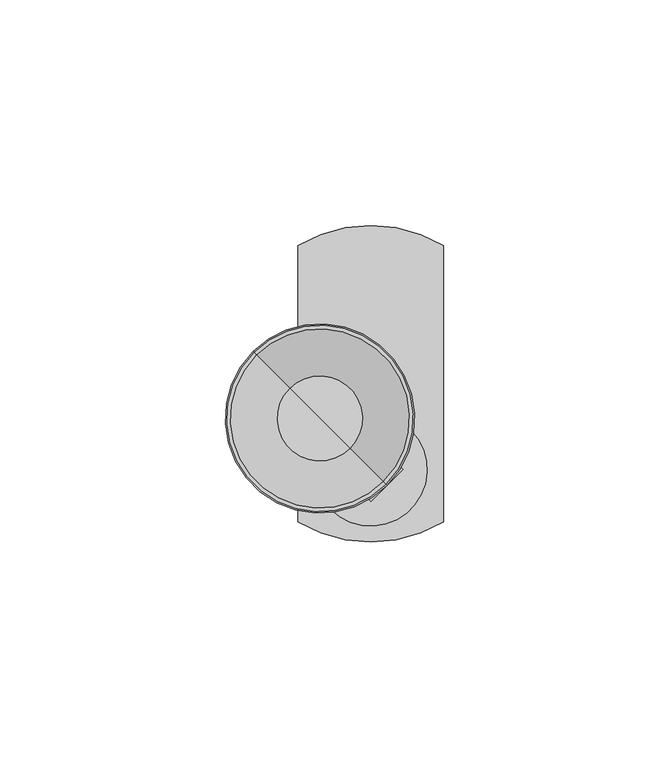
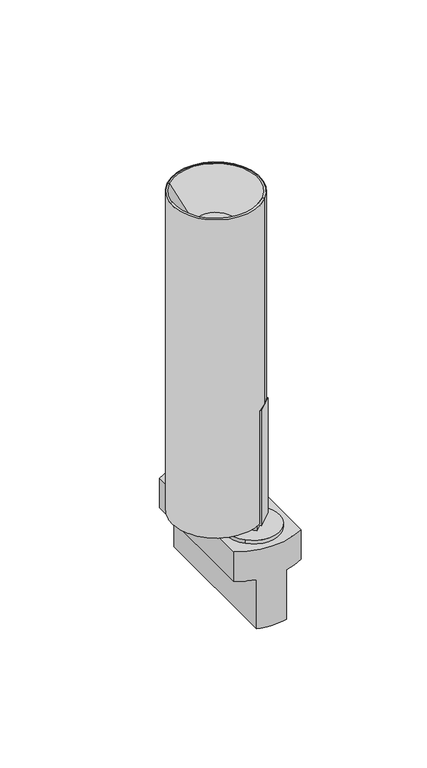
"""IFC4 building model written with IfcOpenShell, lengths in millimetres: light fixture geometry, PIPES T XS : 490lm 7,8W 930 38°."""

import ifcopenshell
import ifcopenshell.guid

model = None  # the IFC model being written
_history = None  # IfcOwnerHistory: only IFC2X3 demands one
_inside = {}  # id of a spatial element -> (the spatial element, [elements in it])
_under = {}  # id of a project, library or spatial element -> (it, [spatial elements below it])
_declared = {}  # id of a project -> (the project, [libraries it declares])
_typed = {}  # id of a type object -> (the type object, [elements of that type])
_made_of = {}  # id of a material, layer set ... -> (it, [elements and type objects made of it])


def new_model(schema):
    """Start an empty IFC model of exactly this schema.

    Asked for "IFC4X3", IfcOpenShell would pick the latest addendum, in which some entities
    have other attributes; the version numbers below select the first issue.
    IFC2X3 requires an IfcOwnerHistory on every rooted entity: one is made here for all.
    """
    global model, _history
    if schema == "IFC4X3":
        model = ifcopenshell.file(schema_version=(4, 3, 0, 0))
    else:
        model = ifcopenshell.file(schema=schema)
    _inside.clear()
    _under.clear()
    _declared.clear()
    _typed.clear()
    _made_of.clear()
    _history = None
    if model.schema == "IFC2X3":
        org = make("IfcOrganization", Name="unknown")
        user = make(
            "IfcPersonAndOrganization",
            ThePerson=make("IfcPerson", FamilyName="unknown"),
            TheOrganization=org,
        )
        app = make(
            "IfcApplication",
            ApplicationDeveloper=org,
            Version="unknown",
            ApplicationFullName="unknown",
            ApplicationIdentifier="unknown",
        )
        _history = make(
            "IfcOwnerHistory",
            OwningUser=user,
            OwningApplication=app,
            ChangeAction="ADDED",
            CreationDate=0,
        )
    return model


def make(cls, **values):
    """One entity of the class cls with the attributes given. An attribute that is None is left unset."""
    return model.create_entity(
        cls, **{name: value for name, value in values.items() if value is not None}
    )


def rooted(cls, **values):
    """An entity with a GlobalId (a new one), such as an element, a storey or a relation."""
    return make(cls, GlobalId=ifcopenshell.guid.new(), OwnerHistory=_history, **values)


def si_unit(unit_type, name, prefix=None):
    """IfcSIUnit, for example si_unit("LENGTHUNIT", "METRE", prefix="MILLI")."""
    return make("IfcSIUnit", UnitType=unit_type, Prefix=prefix, Name=name)


def assignment(units):
    """IfcUnitAssignment: the units of a project."""
    return None if units is None else make("IfcUnitAssignment", Units=units)


def point(xyz):
    """IfcCartesianPoint."""
    return None if xyz is None else make("IfcCartesianPoint", Coordinates=xyz)


def direction(xyz):
    """IfcDirection."""
    return None if xyz is None else make("IfcDirection", DirectionRatios=xyz)


def frame(location, z_axis=None, x_axis=None):
    """IfcAxis2Placement3D, a coordinate frame: its origin and axes. An axis left out is left unset."""
    return make(
        "IfcAxis2Placement3D",
        Location=point(location),
        Axis=direction(z_axis),
        RefDirection=direction(x_axis),
    )


def frame_2d(location, x_axis=None):
    """IfcAxis2Placement2D, a coordinate frame in the plane: its origin and x axis."""
    return make(
        "IfcAxis2Placement2D", Location=point(location), RefDirection=direction(x_axis)
    )


def origin():
    """The frame at (0, 0, 0) with its axes left unset."""
    return frame((0.0, 0.0, 0.0))


def origin_2d():
    """The frame at (0, 0) in the plane with its x axis left unset."""
    return frame_2d((0.0, 0.0))


def place(relative_to, where):
    """IfcLocalPlacement: puts the frame where relative to a parent placement (None: the world)."""
    return make(
        "IfcLocalPlacement", PlacementRelTo=relative_to, RelativePlacement=where
    )


def context(
    kind, dimensions, precision=None, world=None, true_north=None, identifier=None
):
    """IfcGeometricRepresentationContext, for example the 3D "Model" context."""
    return make(
        "IfcGeometricRepresentationContext",
        ContextIdentifier=identifier,
        ContextType=kind,
        CoordinateSpaceDimension=dimensions,
        Precision=precision,
        WorldCoordinateSystem=world,
        TrueNorth=true_north,
    )


def project(units=None, contexts=None):
    """IfcProject with its units and contexts."""
    return rooted(
        "IfcProject",
        Name="project",
        RepresentationContexts=contexts,
        UnitsInContext=assignment(units),
    )


def spatial(cls, under=None, at=None, **own):
    """A site, building, storey or space (cls), placed at a placement, below another one or the project."""
    s = rooted(cls, ObjectPlacement=at, **own)
    if under is not None:
        _under.setdefault(under.id(), (under, []))[1].append(s)
    return s


def polyline(points):
    """IfcPolyline through the points."""
    return make("IfcPolyline", Points=[point(p) for p in points])


def circle_curve(where, radius):
    """IfcCircle in the frame where."""
    return make("IfcCircle", Position=where, Radius=radius)


def trimmed(basis, trim1, trim2, sense, master):
    """IfcTrimmedCurve: the piece of a basis curve between two trims."""
    return make(
        "IfcTrimmedCurve",
        BasisCurve=basis,
        Trim1=trim1,
        Trim2=trim2,
        SenseAgreement=sense,
        MasterRepresentation=master,
    )


def segment(curve, same_sense, transition):
    """IfcCompositeCurveSegment."""
    return make(
        "IfcCompositeCurveSegment",
        Transition=transition,
        SameSense=same_sense,
        ParentCurve=curve,
    )


def composite_curve(segments, self_intersect=None):
    """IfcCompositeCurve: segments joined end to end."""
    return make("IfcCompositeCurve", Segments=segments, SelfIntersect=self_intersect)


def outline(outer, holes=None, kind="AREA"):
    """IfcArbitraryClosedProfileDef: a profile drawn as a closed curve; with holes, ...WithVoids."""
    if holes is None:
        return make("IfcArbitraryClosedProfileDef", ProfileType=kind, OuterCurve=outer)
    return make(
        "IfcArbitraryProfileDefWithVoids",
        ProfileType=kind,
        OuterCurve=outer,
        InnerCurves=holes,
    )


def extrude(swept, where, along, depth):
    """IfcExtrudedAreaSolid: the profile swept, set in the frame where, extruded along a direction by depth."""
    return make(
        "IfcExtrudedAreaSolid",
        SweptArea=swept,
        Position=where,
        ExtrudedDirection=direction(along),
        Depth=depth,
    )


def shape(context_of_items, identifier, shape_type, items):
    """IfcShapeRepresentation: the items that make up one representation, for example the "Body"."""
    return make(
        "IfcShapeRepresentation",
        ContextOfItems=context_of_items,
        RepresentationIdentifier=identifier,
        RepresentationType=shape_type,
        Items=items,
    )


def source(mapping_origin, context_of_items, identifier, shape_type, items):
    """IfcRepresentationMap: a shape defined once, which mapped items show again and again."""
    return make(
        "IfcRepresentationMap",
        MappingOrigin=mapping_origin,
        MappedRepresentation=shape(context_of_items, identifier, shape_type, items),
    )


def transform(
    local_origin,
    x_axis=None,
    y_axis=None,
    z_axis=None,
    scale=None,
    scale2=None,
    scale3=None,
    uniform=True,
):
    """IfcCartesianTransformationOperator3D, or its non-uniform kind. x_axis, y_axis, z_axis: its Axis1, 2, 3."""
    if uniform:
        return make(
            "IfcCartesianTransformationOperator3D",
            Axis1=direction(x_axis),
            Axis2=direction(y_axis),
            LocalOrigin=point(local_origin),
            Scale=scale,
            Axis3=direction(z_axis),
        )
    return make(
        "IfcCartesianTransformationOperator3DnonUniform",
        Axis1=direction(x_axis),
        Axis2=direction(y_axis),
        LocalOrigin=point(local_origin),
        Scale=scale,
        Axis3=direction(z_axis),
        Scale2=scale2,
        Scale3=scale3,
    )


def mapped(mapping_source, mapping_target):
    """IfcMappedItem: shows the shape of a source again, moved by a transform."""
    return make(
        "IfcMappedItem", MappingSource=mapping_source, MappingTarget=mapping_target
    )


def made_of(thing, what):
    """Note that an element or type object is made of a material, layer set ...; save() writes the relation."""
    if what is not None:
        _made_of.setdefault(what.id(), (what, []))[1].append(thing)
    return thing


def element(
    cls,
    number,
    at=None,
    inside=None,
    cuts=None,
    type_object=None,
    material=None,
    context=None,
    identifier="Body",
    shape_type=None,
    held_by="IfcProductDefinitionShape",
    body=None,
    shapes=None,
    **own,
):
    """One element of the class cls, such as IfcWall. Its Tag is "e" and its number.

    at: its placement. inside: the storey or other place that contains it. cuts: it is an
    opening in that element (IfcRelVoidsElement). A single representation is given by context,
    identifier, shape_type and body (its items); several are given by shapes. held_by: the class
    of the entity that holds the representations. save() writes the other relations.
    """
    e = rooted(cls, Tag="e%d" % number, ObjectPlacement=at, **own)
    if body is not None:
        shapes = [shape(context, identifier, shape_type, body)]
    if shapes is not None:
        e.Representation = make(held_by, Representations=shapes)
    if inside is not None:
        _inside.setdefault(inside.id(), (inside, []))[1].append(e)
    if cuts is not None:
        rooted(
            "IfcRelVoidsElement", RelatingBuildingElement=cuts, RelatedOpeningElement=e
        )
    if type_object is not None:
        _typed.setdefault(type_object.id(), (type_object, []))[1].append(e)
    return made_of(e, material)


def aggregate(whole, parts):
    """IfcRelAggregates: a whole, such as a stair, and the parts it consists of."""
    return rooted("IfcRelAggregates", RelatingObject=whole, RelatedObjects=parts)


def save(model, path):
    """Write the relations noted so far, then the file.

    IfcRelAggregates (storeys below a building ...), IfcRelContainedInSpatialStructure (elements
    in a storey), IfcRelDefinesByType, IfcRelAssociatesMaterial and IfcRelDeclares: one each for
    every whole, place, type object, material and project.
    """
    for whole, parts in _under.values():
        aggregate(whole, parts)
    for where, things in _inside.values():
        rooted(
            "IfcRelContainedInSpatialStructure",
            RelatedElements=things,
            RelatingStructure=where,
        )
    for kind, things in _typed.values():
        rooted("IfcRelDefinesByType", RelatedObjects=things, RelatingType=kind)
    for what, things in _made_of.values():
        rooted("IfcRelAssociatesMaterial", RelatedObjects=things, RelatingMaterial=what)
    for by, libraries in _declared.values():
        rooted("IfcRelDeclares", RelatingContext=by, RelatedDefinitions=libraries)
    model.write(path)


def plane_surface(at):
    """IfcPlane: the flat surface through the origin of the frame at, square to its z axis."""
    return make("IfcPlane", Position=at)


def cylinder_surface(at, radius):
    """IfcCylindricalSurface: all points at the distance radius from the z axis of the frame at."""
    return make("IfcCylindricalSurface", Position=at, Radius=radius)


def revolved_surface(curve, axis_point, axis_direction):
    """IfcSurfaceOfRevolution: the curve turned about the line through axis_point along axis_direction."""
    return make(
        "IfcSurfaceOfRevolution",
        SweptCurve=make("IfcArbitraryOpenProfileDef", ProfileType="CURVE", Curve=curve),
        AxisPosition=make("IfcAxis1Placement", Location=point(axis_point), Axis=direction(axis_direction)),
    )


def advanced_brep(points, edges, surfaces, faces):
    """IfcAdvancedBrep: a solid bounded by faces that lie on surfaces and meet in shared edges.

    An edge is (start, end): straight between two places in points (the first is 0);
    or (start, end, curve); or (start, end, curve, False) where it runs against its curve.
    A face is (place in surfaces, loops), or (place, loops, False) where it looks against
    its surface's normal. A loop lists edges by number (the first is 1), with a minus sign
    where the edge is run from its end to its start. The first loop is the outer one.
    """
    corners = [point(p) for p in points]
    vertices = [make("IfcVertexPoint", VertexGeometry=c) for c in corners]
    made = []
    for start, end, *more in edges:
        made.append(
            make(
                "IfcEdgeCurve",
                EdgeStart=vertices[start],
                EdgeEnd=vertices[end],
                EdgeGeometry=more[0] if more else make("IfcPolyline", Points=[corners[start], corners[end]]),
                SameSense=more[1] if len(more) > 1 else True,
            )
        )
    hull = []
    for where, loops, *sense in faces:
        bounds = []
        for j, loop in enumerate(loops):
            ring = [make("IfcOrientedEdge", EdgeElement=made[abs(k) - 1], Orientation=k > 0) for k in loop]
            bounds.append(
                make(
                    "IfcFaceOuterBound" if j == 0 else "IfcFaceBound",
                    Bound=make("IfcEdgeLoop", EdgeList=ring),
                    Orientation=True,
                )
            )
        hull.append(make("IfcAdvancedFace", Bounds=bounds, FaceSurface=surfaces[where], SameSense=sense[0] if sense else True))
    return make("IfcAdvancedBrep", Outer=make("IfcClosedShell", CfsFaces=hull))


def light_fixture_b4967820(model_context):
    return source(origin(), model_context, "Body", "SolidModel", [
        extrude(outline(composite_curve([segment(polyline([(39.7303383, 0.0), (39.7303383, -7.9999999), (36.7303383, -7.9999999), (36.7303383, -10.0), (-21.31827, -10.0), (-21.31827, -2.0000001)]), True, "CONTINUOUS"), segment(trimmed(circle_curve(frame_2d((-15.691322, -2.0000001)), 5.626948), [point((-21.31827, -2.0000001))], [point((-15.691322, 3.626948))], False, "CARTESIAN"), True, "CONTINUOUS"), segment(polyline([(-15.691322, 3.626948), (-9.8735653, 3.626948)]), True, "CONTINUOUS"), segment(trimmed(circle_curve(frame_2d((-17.7182036, -2.2388678)), 9.7952104), [point((-9.8735653, 3.626948))], [point((-8.1822916, 0.0))], False, "CARTESIAN"), True, "CONTINUOUS"), segment(polyline([(-8.1822916, 0.0), (39.7303383, 0.0)]), True, "CONTINUOUS")], self_intersect=False)), frame((-7.0710678, 0.0, 56.5303383), z_axis=(0.7071067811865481, 0.707106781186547, 0.0), x_axis=(0.0, 0.0, -1.0)), (0.0, 0.0, 1.0), 10.0),
        extrude(outline(composite_curve([segment(trimmed(circle_curve(origin_2d(), 12.5), [point((8.8388348, 8.8388348))], [point((-8.8388348, -8.8388348))], False, "CARTESIAN"), True, "CONTINUOUS"), segment(trimmed(circle_curve(origin_2d(), 12.5), [point((-8.8388348, -8.8388348))], [point((8.8388348, 8.8388348))], False, "CARTESIAN"), True, "CONTINUOUS")], self_intersect=False)), frame((0.0, 0.0, 15.0), z_axis=(0.0, 0.0, 1.0), x_axis=(1.0, 0.0, 0.0)), (0.0, 0.0, 1.0), 1.8),
        advanced_brep(
        [(-7.1153658, -15.2862846, -25.0), (-7.1153658, 53.3498174, -25.0), (7.1153658, 53.3498174, -25.0), (7.1153658, -15.2862846, -25.0), (-16.1153658, 49.7317664, 15.0), (-16.1153658, -11.6682336, 15.0), (16.1153658, -11.6682336, 15.0), (16.1153658, 49.7317664, 15.0), (-16.1153658, 49.7317664, 0.0), (-16.1153658, -11.6682336, 0.0), (-7.1153658, -15.2862846, 0.0), (7.1153658, -15.2862846, 0.0), (16.1153658, -11.6682336, 0.0), (16.1153658, 49.7317664, 0.0), (7.1153658, 53.3498174, 0.0), (-7.1153658, 53.3498174, 0.0)],
        [
            (0, 1),
            (1, 2, circle_curve(frame((0.0, 22.6472542, -25.0), z_axis=(0.0, 0.0, -1.0), x_axis=(1.0, 0.0, 0.0)), 31.5162786)),
            (2, 3),
            (3, 0, circle_curve(frame((0.0, 15.4162786, -25.0), z_axis=(0.0, 0.0, -1.0), x_axis=(1.0, 0.0, 0.0)), 31.5162786)),
            (4, 5),
            (5, 6, circle_curve(frame((0.0, 15.4162786, 15.0), z_axis=(0.0, 0.0, 1.0), x_axis=(1.0, 0.0, 0.0)), 31.5162786)),
            (6, 7),
            (7, 4, circle_curve(frame((0.0, 22.6472542, 15.0), z_axis=(0.0, 0.0, 1.0), x_axis=(1.0, 0.0, 0.0)), 31.5162786)),
            (4, 8),
            (8, 9),
            (9, 5),
            (9, 10, circle_curve(frame((0.0, 15.4162786, 0.0), z_axis=(0.0, 0.0, 1.0), x_axis=(1.0, 0.0, 0.0)), 31.5162786)),
            (10, 0),
            (3, 11),
            (11, 12, circle_curve(frame((0.0, 15.4162786, 0.0), z_axis=(0.0, 0.0, 1.0), x_axis=(1.0, 0.0, 0.0)), 31.5162786)),
            (12, 6),
            (12, 13),
            (13, 7),
            (13, 14, circle_curve(frame((0.0, 22.6472542, 0.0), z_axis=(0.0, 0.0, 1.0), x_axis=(1.0, 0.0, 0.0)), 31.5162786)),
            (14, 2),
            (1, 15),
            (15, 8, circle_curve(frame((0.0, 22.6472542, 0.0), z_axis=(0.0, 0.0, 1.0), x_axis=(1.0, 0.0, 0.0)), 31.5162786)),
            (15, 10),
            (11, 14),
        ],
        [
            plane_surface(frame((-16.1153658, -11.6883244, -25.0), z_axis=(0.0, 0.0, -1.0), x_axis=(0.0, 1.0, 0.0))),
            plane_surface(frame((-16.1153658, -11.6883244, 15.0), z_axis=(0.0, 0.0, 1.0), x_axis=(0.0, -1.0, 0.0))),
            plane_surface(frame((-16.1153658, 49.7317664, 15.0), z_axis=(-1.0, 0.0, 0.0), x_axis=(0.0, 0.0, -1.0))),
            cylinder_surface(frame((0.0, 15.4162786, -25.0), z_axis=(0.0, 0.0, 1.0), x_axis=(1.0, 0.0, 0.0)), 31.5162786),
            plane_surface(frame((16.1153658, -11.6682336, 15.0), z_axis=(1.0, 0.0, 0.0), x_axis=(0.0, 0.0, -1.0))),
            cylinder_surface(frame((0.0, 22.6472542, -25.0), z_axis=(0.0, 0.0, 1.0), x_axis=(1.0, 0.0, 0.0)), 31.5162786),
            plane_surface(frame((-7.1153658, 58.6979838, 0.0), z_axis=(0.0, 0.0, -1.0), x_axis=(-1.0, 0.0, 0.0))),
            plane_surface(frame((-7.1153658, -21.3020162, 0.0), z_axis=(-1.0, 0.0, 0.0), x_axis=(0.0, 0.0, -1.0))),
            plane_surface(frame((7.1153658, -11.6883244, 0.0), z_axis=(0.0, 0.0, -1.0), x_axis=(0.0, -1.0, 0.0))),
            plane_surface(frame((7.1153658, 58.6979838, 0.0), z_axis=(1.0, 0.0, 0.0), x_axis=(0.0, 0.0, -1.0))),
        ],
        [
            (0, [[1, 2, 3, 4]]),
            (1, [[5, 6, 7, 8]]),
            (2, [[-5, 9, 10, 11]]),
            (3, [[-6, -11, 12, 13, -4, 14, 15, 16]]),
            (4, [[-7, -16, 17, 18]]),
            (5, [[-8, -18, 19, 20, -2, 21, 22, -9]]),
            (6, [[23, -12, -10, -22]]),
            (7, [[-23, -21, -1, -13]]),
            (8, [[24, -19, -17, -15]]),
            (9, [[-24, -14, -3, -20]]),
        ],
    ),
        advanced_brep(
        [(0.0, 7.0710678, 78.0), (0.0, 7.0710678, 27.0), (5.1833068, 1.887761, 27.0), (5.1833068, 1.887761, 21.0), (6.6440305, 0.4270373, 21.0), (6.6440305, 0.4270373, 78.0), (-7.0710678, 0.0, 78.0), (-0.4270373, -6.6440305, 78.0), (-0.4270373, -6.6440305, 21.0), (-1.887761, -5.1833068, 21.0), (-1.887761, -5.1833068, 27.0), (-7.0710678, 0.0, 27.0), (-3.5355339, 3.5355339, 27.0), (3.5355339, -3.5355339, 78.0), (3.5355339, -3.5355339, 182.0), (-26.1629509, 26.1629509, 182.0), (-26.1629509, 26.1629509, 21.0), (-24.7487373, 24.7487373, 21.0), (-24.7487373, 24.7487373, 27.0), (-11.3137085, 11.3137085, 27.0), (-18.3847763, 18.3847763, 163.5), (-4.2426407, 4.2426407, 163.5), (-11.3137085, 11.3137085, 163.5)],
        [
            (0, 1),
            (1, 2),
            (2, 3),
            (3, 4),
            (4, 5),
            (5, 0),
            (6, 7),
            (7, 8),
            (8, 9),
            (9, 10),
            (10, 11),
            (11, 6),
            (0, 6),
            (11, 12),
            (12, 1),
            (5, 13, circle_curve(frame((-11.3137085, 11.3137085, 78.0), z_axis=(0.0, 0.0, -1.0), x_axis=(0.707106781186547, -0.7071067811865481, 0.0)), 21.0)),
            (13, 7, circle_curve(frame((-11.3137085, 11.3137085, 78.0), z_axis=(0.0, 0.0, -1.0), x_axis=(0.707106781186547, -0.7071067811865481, 0.0)), 21.0)),
            (14, 15, circle_curve(frame((-11.3137085, 11.3137085, 182.0), z_axis=(0.0, 0.0, -1.0), x_axis=(0.707106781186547, -0.7071067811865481, 0.0)), 21.0)),
            (15, 16),
            (16, 8, circle_curve(frame((-11.3137085, 11.3137085, 21.0), z_axis=(0.0, 0.0, 1.0), x_axis=(0.707106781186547, -0.7071067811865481, 0.0)), 21.0)),
            (13, 14),
            (15, 14, circle_curve(frame((-11.3137085, 11.3137085, 182.0), z_axis=(0.0, 0.0, -1.0), x_axis=(0.707106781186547, -0.7071067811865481, 0.0)), 21.0)),
            (4, 16, circle_curve(frame((-11.3137085, 11.3137085, 21.0), z_axis=(0.0, 0.0, 1.0), x_axis=(0.707106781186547, -0.7071067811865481, 0.0)), 21.0)),
            (16, 17),
            (17, 9, circle_curve(frame((-11.3137085, 11.3137085, 21.0), z_axis=(0.0, 0.0, 1.0), x_axis=(0.707106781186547, -0.7071067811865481, 0.0)), 19.0)),
            (3, 17, circle_curve(frame((-11.3137085, 11.3137085, 21.0), z_axis=(0.0, 0.0, 1.0), x_axis=(0.707106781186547, -0.7071067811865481, 0.0)), 19.0)),
            (17, 18),
            (18, 10, circle_curve(frame((-11.3137085, 11.3137085, 27.0), z_axis=(0.0, 0.0, 1.0), x_axis=(0.707106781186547, -0.7071067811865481, 0.0)), 19.0)),
            (2, 18, circle_curve(frame((-11.3137085, 11.3137085, 27.0), z_axis=(0.0, 0.0, 1.0), x_axis=(0.707106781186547, -0.7071067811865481, 0.0)), 19.0)),
            (18, 19),
            (19, 12),
            (20, 21, circle_curve(frame((-11.3137085, 11.3137085, 163.5), z_axis=(0.0, 0.0, 1.0), x_axis=(0.707106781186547, -0.7071067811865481, 0.0)), 10.0)),
            (21, 22),
            (22, 20),
            (21, 20, circle_curve(frame((-11.3137085, 11.3137085, 163.5), z_axis=(0.0, 0.0, 1.0), x_axis=(0.707106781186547, -0.7071067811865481, 0.0)), 10.0)),
            (14, 21),
            (20, 15),
        ],
        [
            plane_surface(frame((0.0, 7.0710678, 78.0), z_axis=(-0.7071067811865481, -0.707106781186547, 0.0), x_axis=(0.0, 0.0, 1.0))),
            plane_surface(frame((-7.0710678, 0.0, 78.0), z_axis=(0.7071067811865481, 0.707106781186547, 0.0), x_axis=(0.0, 0.0, -1.0))),
            plane_surface(frame((-7.0710678, 0.0, 78.0), z_axis=(0.707106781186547, -0.7071067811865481, 0.0), x_axis=(0.7071067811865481, 0.707106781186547, 0.0))),
            plane_surface(frame((7.0710678, -14.1421356, 78.0), z_axis=(0.0, 0.0, -1.0000000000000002), x_axis=(0.7071067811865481, 0.707106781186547, 0.0))),
            cylinder_surface(frame((-11.3137085, 11.3137085, 12.547619), z_axis=(0.0, 0.0, -1.0000000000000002), x_axis=(0.707106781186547, -0.7071067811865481, 0.0)), 21.0),
            plane_surface(frame((-11.3137085, 11.3137085, 21.0), z_axis=(0.0, 0.0, -1.0000000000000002), x_axis=(0.707106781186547, -0.7071067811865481, 0.0))),
            revolved_surface(polyline([(2.1213203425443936, -2.121320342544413, 21.000000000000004), (2.1213203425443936, -2.121320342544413, 27.000000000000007)]), (-11.3137085, 11.3137085, 12.547619), (0.0, 0.0, -1.0000000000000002)),
            plane_surface(frame((-11.3137085, 11.3137085, 27.0), z_axis=(0.0, 0.0, -1.0000000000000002), x_axis=(0.707106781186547, -0.7071067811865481, 0.0))),
            plane_surface(frame((-11.3137085, 11.3137085, 163.5), z_axis=(0.0, 0.0, 1.0000000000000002), x_axis=(0.707106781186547, -0.7071067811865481, 0.0))),
            revolved_surface(polyline([(-4.2426407, 4.2426407, 163.5), (3.5355339, -3.5355339, 182.0)]), (-11.3137085, 11.3137085, 12.547619), (0.0, 0.0, -1.0000000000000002)),
        ],
        [
            (0, [[1, 2, 3, 4, 5, 6]]),
            (1, [[7, 8, 9, 10, 11, 12]]),
            (2, [[13, -12, 14, 15, -1]]),
            (3, [[-13, -6, 16, 17, -7]]),
            (4, [[18, 19, 20, -8, -17, 21]]),
            (4, [[-19, 22, -21, -16, -5, 23]]),
            (5, [[24, 25, -9, -20]]),
            (5, [[-24, -23, -4, 26]]),
            (6, [[27, 28, -10, -25]]),
            (6, [[-27, -26, -3, 29]]),
            (7, [[30, 31, -14, -11, -28]]),
            (7, [[-30, -29, -2, -15, -31]]),
            (8, [[32, 33, 34]]),
            (8, [[-33, 35, -34]]),
            (9, [[-18, 36, -32, 37]]),
            (9, [[-22, -37, -35, -36]]),
        ],
    ),
        advanced_brep(
        [(0.0, 7.0710678, 23.0), (0.0, 7.0710678, 21.0), (3.7062478, 3.36482, 21.0), (3.7062478, 3.36482, 23.0), (-7.0710678, 0.0, 21.0), (-7.0710678, 0.0, 23.0), (-3.36482, -3.7062478, 23.0), (-3.36482, -3.7062478, 21.0), (-3.5355339, 3.5355339, 23.0), (-3.5355339, 3.5355339, 21.0), (-11.3137085, 11.3137085, 23.0), (-23.330029, 23.330029, 23.0), (-23.330029, 23.330029, 21.0), (-11.3137085, 11.3137085, 21.0)],
        [
            (0, 1),
            (1, 2),
            (2, 3),
            (3, 0),
            (4, 5),
            (5, 6),
            (6, 7),
            (7, 4),
            (0, 8),
            (8, 5),
            (4, 9),
            (9, 1),
            (10, 11),
            (11, 6, circle_curve(frame((-11.3137085, 11.3137085, 23.0), z_axis=(0.0, 0.0, 1.0), x_axis=(0.707106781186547, -0.7071067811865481, 0.0)), 16.9936434)),
            (8, 10),
            (3, 11, circle_curve(frame((-11.3137085, 11.3137085, 23.0), z_axis=(0.0, 0.0, 1.0), x_axis=(0.707106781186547, -0.7071067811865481, 0.0)), 16.9936434)),
            (11, 12),
            (12, 7, circle_curve(frame((-11.3137085, 11.3137085, 21.0), z_axis=(0.0, 0.0, 1.0), x_axis=(0.707106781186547, -0.7071067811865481, 0.0)), 16.9936434)),
            (2, 12, circle_curve(frame((-11.3137085, 11.3137085, 21.0), z_axis=(0.0, 0.0, 1.0), x_axis=(0.707106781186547, -0.7071067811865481, 0.0)), 16.9936434)),
            (12, 13),
            (13, 9),
        ],
        [
            plane_surface(frame((0.0, 7.0710678, 78.0), z_axis=(-0.7071067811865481, -0.707106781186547, 0.0), x_axis=(0.0, 0.0, 1.0))),
            plane_surface(frame((-7.0710678, 0.0, 78.0), z_axis=(0.7071067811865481, 0.707106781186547, 0.0), x_axis=(0.0, 0.0, -1.0))),
            plane_surface(frame((-7.0710678, 0.0, 78.0), z_axis=(0.707106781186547, -0.7071067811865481, 0.0), x_axis=(0.7071067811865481, 0.707106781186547, 0.0))),
            plane_surface(frame((-11.3137085, 11.3137085, 23.0), z_axis=(0.0, 0.0, 1.0000000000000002), x_axis=(0.707106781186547, -0.7071067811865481, 0.0))),
            cylinder_surface(frame((-11.3137085, 11.3137085, 153.047619), z_axis=(0.0, 0.0, -1.0000000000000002), x_axis=(0.707106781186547, -0.7071067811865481, 0.0)), 16.9936434),
            plane_surface(frame((-11.3137085, 11.3137085, 21.0), z_axis=(0.0, 0.0, -1.0000000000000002), x_axis=(0.707106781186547, -0.7071067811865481, 0.0))),
        ],
        [
            (0, [[1, 2, 3, 4]]),
            (1, [[5, 6, 7, 8]]),
            (2, [[-1, 9, 10, -5, 11, 12]]),
            (3, [[13, 14, -6, -10, 15]]),
            (3, [[-13, -15, -9, -4, 16]]),
            (4, [[17, 18, -7, -14]]),
            (4, [[-17, -16, -3, 19]]),
            (5, [[20, 21, -11, -8, -18]]),
            (5, [[-20, -19, -2, -12, -21]]),
        ],
    ),
        advanced_brep(
        [(-17.982557, 17.982557, 164.5), (-4.64486, 4.64486, 164.5), (-11.3137085, 11.3137085, 164.5), (-25.3402898, 25.3402898, 182.0), (2.7128728, -2.7128728, 182.0), (-26.1629509, 26.1629509, 182.0), (3.5355339, -3.5355339, 182.0), (-18.3847763, 18.3847763, 163.5), (-4.2426407, 4.2426407, 163.5), (-11.3137085, 11.3137085, 163.5)],
        [
            (0, 1, circle_curve(frame((-11.3137085, 11.3137085, 164.5), z_axis=(0.0, 0.0, 1.0), x_axis=(0.707106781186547, -0.7071067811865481, 0.0)), 9.431176)),
            (1, 2),
            (2, 0),
            (1, 0, circle_curve(frame((-11.3137085, 11.3137085, 164.5), z_axis=(0.0, 0.0, 1.0), x_axis=(0.707106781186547, -0.7071067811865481, 0.0)), 9.431176)),
            (3, 4, circle_curve(frame((-11.3137085, 11.3137085, 182.0), z_axis=(0.0, 0.0, 1.0), x_axis=(0.707106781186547, -0.7071067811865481, 0.0)), 19.8365814)),
            (4, 1),
            (0, 3),
            (4, 3, circle_curve(frame((-11.3137085, 11.3137085, 182.0), z_axis=(0.0, 0.0, 1.0), x_axis=(0.707106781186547, -0.7071067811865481, 0.0)), 19.8365814)),
            (5, 6, circle_curve(frame((-11.3137085, 11.3137085, 182.0), z_axis=(0.0, 0.0, 1.0), x_axis=(0.707106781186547, -0.7071067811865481, 0.0)), 21.0)),
            (6, 4),
            (3, 5),
            (6, 5, circle_curve(frame((-11.3137085, 11.3137085, 182.0), z_axis=(0.0, 0.0, 1.0), x_axis=(0.707106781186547, -0.7071067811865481, 0.0)), 21.0)),
            (7, 8, circle_curve(frame((-11.3137085, 11.3137085, 163.5), z_axis=(0.0, 0.0, 1.0), x_axis=(0.707106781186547, -0.7071067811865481, 0.0)), 10.0)),
            (8, 6),
            (5, 7),
            (8, 7, circle_curve(frame((-11.3137085, 11.3137085, 163.5), z_axis=(0.0, 0.0, 1.0), x_axis=(0.707106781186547, -0.7071067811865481, 0.0)), 10.0)),
            (9, 8),
            (7, 9),
        ],
        [
            plane_surface(frame((-11.3137085, 11.3137085, 164.5), z_axis=(0.0, 0.0, 1.0000000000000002), x_axis=(0.707106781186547, -0.7071067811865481, 0.0))),
            revolved_surface(polyline([(-4.64486, 4.64486, 164.5), (2.7128728, -2.7128728, 182.0)]), (-11.3137085, 11.3137085, -7.452381), (0.0, 0.0, -1.0000000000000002)),
            plane_surface(frame((-11.3137085, 11.3137085, 182.0), z_axis=(0.0, 0.0, 1.0000000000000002), x_axis=(0.707106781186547, -0.7071067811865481, 0.0))),
            revolved_surface(polyline([(3.5355339, -3.5355339, 182.0), (-4.2426407, 4.2426407, 163.5)]), (-11.3137085, 11.3137085, -7.452381), (0.0, 0.0, -1.0000000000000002)),
            plane_surface(frame((-11.3137085, 11.3137085, 163.5), z_axis=(0.0, 0.0, -1.0000000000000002), x_axis=(0.707106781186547, -0.7071067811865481, 0.0))),
        ],
        [
            (0, [[1, 2, 3]]),
            (0, [[4, -3, -2]]),
            (1, [[5, 6, -1, 7]]),
            (1, [[8, -7, -4, -6]]),
            (2, [[9, 10, -5, 11]]),
            (2, [[12, -11, -8, -10]]),
            (3, [[13, 14, -9, 15]]),
            (3, [[16, -15, -12, -14]]),
            (4, [[17, -13, 18]]),
            (4, [[-18, -16, -17]]),
        ],
    ),
    ])


if __name__ == "__main__":
    model = new_model("IFC4")
    model_context = context("Model", 3, world=origin())
    ifc_project = project(units=[si_unit("LENGTHUNIT", "METRE", prefix="MILLI")], contexts=[model_context])
    site = spatial("IfcSite", under=ifc_project)
    building = spatial("IfcBuilding", under=site)
    placement = place(None, origin())
    light_fixture_shape = light_fixture_b4967820(model_context)
    element("IfcLightFixture", 1, ObjectType="PIPES T XS : 490lm 7,8W 930 38°", at=placement, inside=building, context=model_context, shape_type="MappedRepresentation", body=[
        mapped(light_fixture_shape, transform((0.0, 0.0, 0.0), x_axis=(1.0, 0.0, 0.0), y_axis=(0.0, 1.0, 0.0), z_axis=(0.0, 0.0, 1.0))),
    ])
    save(model, "model.ifc")
